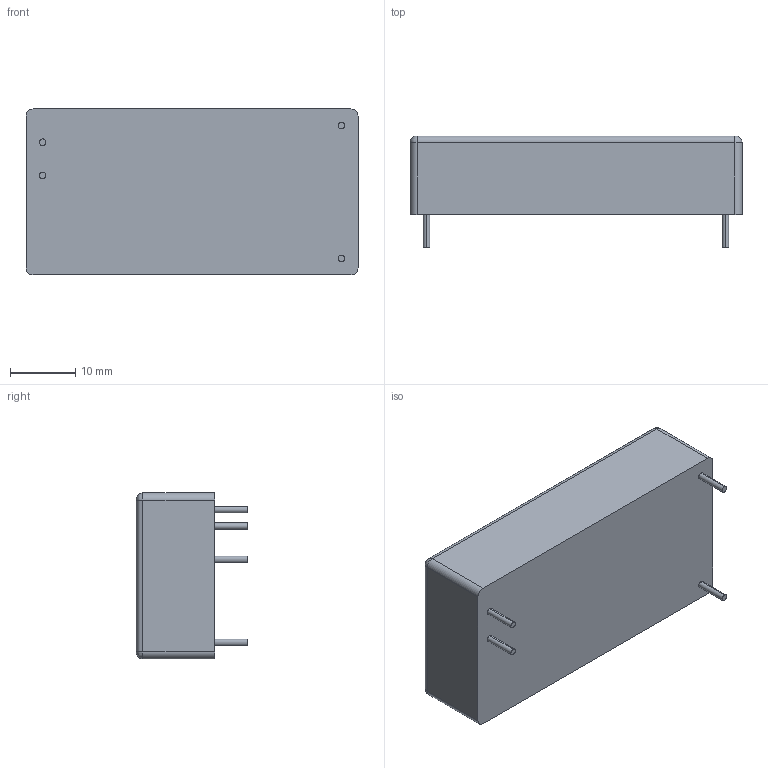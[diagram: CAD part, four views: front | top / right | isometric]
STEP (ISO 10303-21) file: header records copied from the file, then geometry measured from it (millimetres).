
FILE_DESCRIPTION (( 'STEP AP203' ), '1' );
FILE_NAME ('THB 10 Single Output.STEP', '2020-11-13T06:59:28', ( '' ), ( '' ), 'SwSTEP 2.0', 'SolidWorks 2020', '' );
FILE_SCHEMA (( 'CONFIG_CONTROL_DESIGN' ));
Length unit declared in the file: millimetre
Products named in the file (1): THB 10 Single Output
Bounding box: 50.8 x 17.08 x 25.4 mm (x, y, z)
Volume: 15455.5 mm3; surface area: 4383.7 mm2
Topology: 1 solids, 1 shells, 30 faces, 64 edges, 40 vertices
Faces by surface type: cylinder 16, plane 10, torus 4
Entity records: 897 total; most frequent: DIRECTION 162, CARTESIAN_POINT 135, ORIENTED_EDGE 128, AXIS2_PLACEMENT_3D 67, EDGE_CURVE 64, VERTEX_POINT 40, CIRCLE 36, EDGE_LOOP 34
